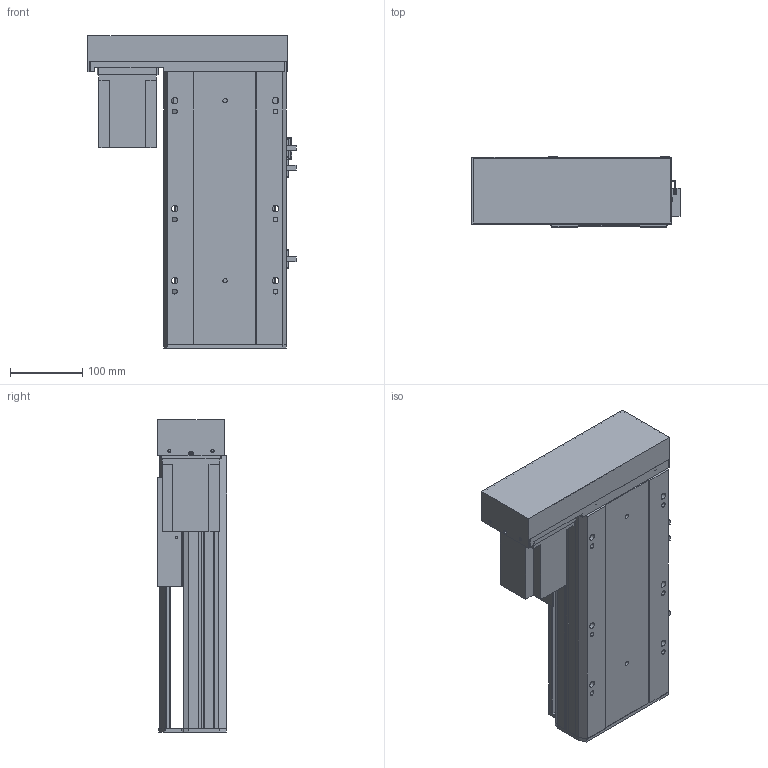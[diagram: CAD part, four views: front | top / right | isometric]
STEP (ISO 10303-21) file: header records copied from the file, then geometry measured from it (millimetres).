
FILE_DESCRIPTION (( 'STEP AP203' ), '1' );
FILE_NAME ('Y170-D10-S150-BL-P750W.STEP', '2020-01-17T12:55:45', ( '微软用户' ), ( '微软中国' ), 'SwSTEP 2.0', 'SolidWorks 2017', '' );
FILE_SCHEMA (( 'CONFIG_CONTROL_DESIGN' ));
Length unit declared in the file: millimetre
Products named in the file (12): Y--BL蟀諉啣-陔遴-; Y100-135俋离換覜ん; Y170-D10-S150-BL-P750W; 170--掛极-BR; Y170-BL-P750W楊擘啣; 侂狟750W; EGH20賑輸_蕼偞; Y雄赽釱-耜蚾; Y-BL.BR-俋欶; Y170耜裔--準---; Y170-陔遴奻裔-BR; YD-Y100-135-新外置传感挡片(通用）
Assembly tree (14 placements, depth 2):
  Y170-D10-S150-BL-P750W
    Y170耜裔--準---
    YD-Y100-135-新外置传感挡片(通用）
    Y100-135俋离換覜ん  x3
    170--掛极-BR
    Y170-BL-P750W楊擘啣
    侂狟750W
    EGH20賑輸_蕼偞  x2
    Y雄赽釱-耜蚾
    Y-BL.BR-俋欶
    Y170-陔遴奻裔-BR
    Y--BL蟀諉啣-陔遴-
Bounding box: 289 x 97 x 433.5 mm (x, y, z)
Volume: 2920329.5 mm3; surface area: 921773.8 mm2
Topology: 14 solids, 14 shells, 885 faces, 2450 edges, 1616 vertices
Faces by surface type: plane 443, cylinder 426, cone 16
Entity records: 27450 total; most frequent: CARTESIAN_POINT 4694, DIRECTION 4588, ORIENTED_EDGE 4396, EDGE_CURVE 2198, AXIS2_PLACEMENT_3D 1618, VERTEX_POINT 1460, VECTOR 1352, LINE 1352
